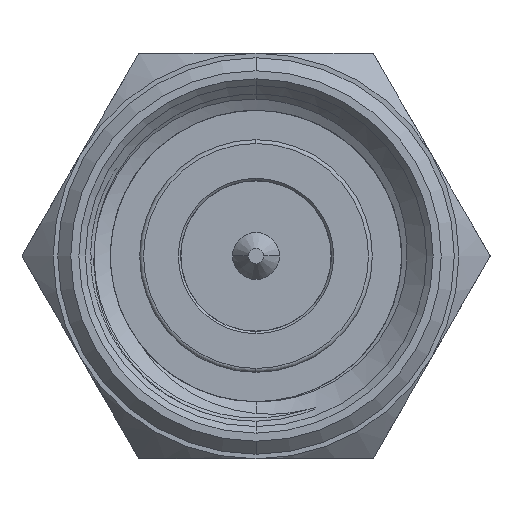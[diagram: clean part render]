
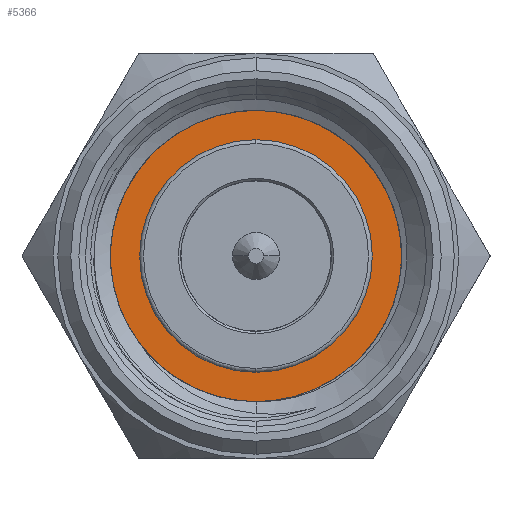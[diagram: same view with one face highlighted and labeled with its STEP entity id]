
A CAD part, left-side view. The second image highlights one B-rep face of the part: STEP entity #5366.
In plain terms, the highlighted planar face has unit normal (-1, 0, 0) as drawn and (0, 0, 1) by its records, which use the part's own axes.
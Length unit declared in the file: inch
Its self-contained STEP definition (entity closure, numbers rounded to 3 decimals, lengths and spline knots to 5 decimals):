
#160 = CARTESIAN_POINT ( 'NONE',  ( 0., 0., 0.031 ) ) ;
#240 = CARTESIAN_POINT ( 'NONE',  ( -0.087, 0., 0.031 ) ) ;
#2227 = DIRECTION ( 'NONE',  ( 0., 0., 1. ) ) ;
#2390 = CARTESIAN_POINT ( 'NONE',  ( 0., 0., 0.031 ) ) ;
#2979 = CIRCLE ( 'NONE', #11158, 0.125 ) ;
#3452 = ORIENTED_EDGE ( 'NONE', *, *, #20796, .T. ) ;
#3501 = EDGE_CURVE ( 'NONE', #10101, #6943, #19332, .T. ) ;
#4150 = EDGE_CURVE ( 'NONE', #4819, #19164, #15793, .T. ) ;
#4452 = DIRECTION ( 'NONE',  ( 1., 0., 0. ) ) ;
#4819 = VERTEX_POINT ( 'NONE', #19066 ) ;
#5247 = AXIS2_PLACEMENT_3D ( 'NONE', #23058, #10714, #25091 ) ;
#5366 = ADVANCED_FACE ( 'NONE', ( #12481, #17337 ), #24677, .T. ) ;
#5720 = EDGE_CURVE ( 'NONE', #6943, #10101, #25969, .T. ) ;
#6521 = DIRECTION ( 'NONE',  ( 0., 0., 1. ) ) ;
#6943 = VERTEX_POINT ( 'NONE', #17364 ) ;
#8404 = EDGE_LOOP ( 'NONE', ( #13262, #25584 ) ) ;
#9419 = ORIENTED_EDGE ( 'NONE', *, *, #4150, .T. ) ;
#9589 = AXIS2_PLACEMENT_3D ( 'NONE', #11453, #25821, #13532 ) ;
#10101 = VERTEX_POINT ( 'NONE', #240 ) ;
#10714 = DIRECTION ( 'NONE',  ( 0., 0., 1. ) ) ;
#11158 = AXIS2_PLACEMENT_3D ( 'NONE', #2390, #16793, #4452 ) ;
#11453 = CARTESIAN_POINT ( 'NONE',  ( 0., 0., 0.031 ) ) ;
#11472 = AXIS2_PLACEMENT_3D ( 'NONE', #160, #2227, #16632 ) ;
#12481 = FACE_OUTER_BOUND ( 'NONE', #21478, .T. ) ;
#13262 = ORIENTED_EDGE ( 'NONE', *, *, #3501, .F. ) ;
#13532 = DIRECTION ( 'NONE',  ( 1., 0., 0. ) ) ;
#15793 = CIRCLE ( 'NONE', #5247, 0.125 ) ;
#16632 = DIRECTION ( 'NONE',  ( 1., 0., 0. ) ) ;
#16793 = DIRECTION ( 'NONE',  ( 0., 0., 1. ) ) ;
#17337 = FACE_BOUND ( 'NONE', #8404, .T. ) ;
#17364 = CARTESIAN_POINT ( 'NONE',  ( 0.087, 0., 0.031 ) ) ;
#18872 = CARTESIAN_POINT ( 'NONE',  ( 0., 0., 0.031 ) ) ;
#19066 = CARTESIAN_POINT ( 'NONE',  ( -0.125, 0., 0.031 ) ) ;
#19164 = VERTEX_POINT ( 'NONE', #20387 ) ;
#19211 = AXIS2_PLACEMENT_3D ( 'NONE', #18872, #6521, #20938 ) ;
#19332 = CIRCLE ( 'NONE', #19211, 0.087 ) ;
#20387 = CARTESIAN_POINT ( 'NONE',  ( 0.125, 0., 0.031 ) ) ;
#20796 = EDGE_CURVE ( 'NONE', #19164, #4819, #2979, .T. ) ;
#20938 = DIRECTION ( 'NONE',  ( 1., 0., 0. ) ) ;
#21478 = EDGE_LOOP ( 'NONE', ( #9419, #3452 ) ) ;
#23058 = CARTESIAN_POINT ( 'NONE',  ( 0., 0., 0.031 ) ) ;
#24677 = PLANE ( 'NONE',  #11472 ) ;
#25091 = DIRECTION ( 'NONE',  ( 1., 0., 0. ) ) ;
#25584 = ORIENTED_EDGE ( 'NONE', *, *, #5720, .F. ) ;
#25821 = DIRECTION ( 'NONE',  ( 0., 0., 1. ) ) ;
#25969 = CIRCLE ( 'NONE', #9589, 0.087 ) ;
